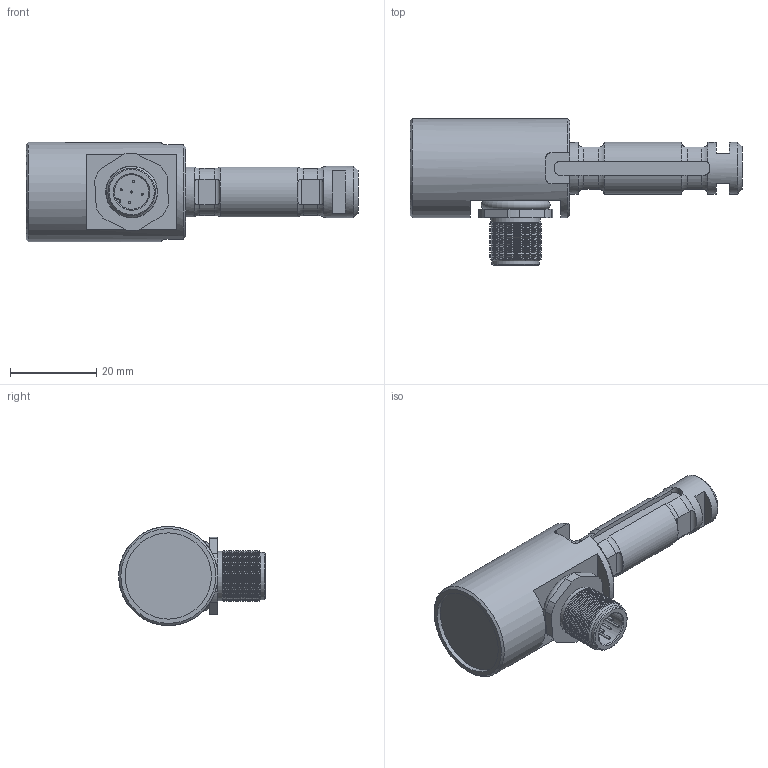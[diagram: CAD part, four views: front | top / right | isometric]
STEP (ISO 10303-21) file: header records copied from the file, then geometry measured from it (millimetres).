
FILE_DESCRIPTION(/* description */ ('Alibre Inc.'),/* implementation_level */ '2;1');
FILE_NAME(/* name */ 'export-BC050F7B-63FD-46FA-AC30-B96C169E96D7',/* time_stamp */ '2022-11-28T11:41:41+01:00',/* author */ (''),/* organization */ (''),/* preprocessor_version */ 'ST-DEVELOPER v17',/* originating_system */ 'Alibre',/* authorisation */ '');
FILE_SCHEMA (('CONFIG_CONTROL_DESIGN'));
Length unit declared in the file: centimetre
Bounding box: 77 x 34 x 23 mm (x, y, z)
Surface area: 159173.4 mm2
Topology: 7 solids, 8 shells, 260 faces, 593 edges, 358 vertices
Faces by surface type: cylinder 87, plane 82, cone 73, torus 18
Full cylindrical faces by diameter (mm): 0.5 x10, 8 x2, 10 x1, 11 x1, 11.5 x1, 12 x22, 13 x2, 14.5 x1, 20 x1, 23 x1
Entity records: 6916 total; most frequent: CARTESIAN_POINT 1943, ORIENTED_EDGE 982, DIRECTION 784, EDGE_CURVE 485, EDGE_LOOP 375, FACE_BOUND 375, AXIS2_PLACEMENT_3D 353, VERTEX_POINT 344
